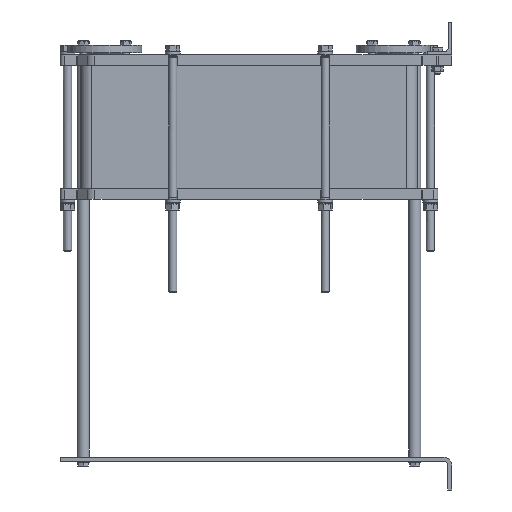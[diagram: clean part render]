
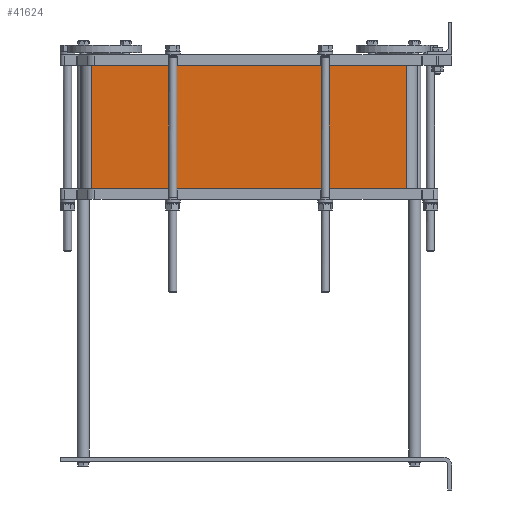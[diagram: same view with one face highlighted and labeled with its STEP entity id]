
A CAD part, left-side view. The second image highlights one B-rep face of the part: STEP entity #41624.
In plain terms, the highlighted planar face has unit normal (-1, 0, 0).
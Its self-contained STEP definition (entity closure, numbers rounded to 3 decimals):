
#1335 = VECTOR ( 'NONE', #27441, 1000. ) ;
#1501 = CARTESIAN_POINT ( 'NONE',  ( 31.5, 875., -105. ) ) ;
#5688 = AXIS2_PLACEMENT_3D ( 'NONE', #35583, #44429, #21113 ) ;
#9001 = CARTESIAN_POINT ( 'NONE',  ( 31.5, 109., -105. ) ) ;
#12763 = VERTEX_POINT ( 'NONE', #1501 ) ;
#15050 = VERTEX_POINT ( 'NONE', #43001 ) ;
#16832 = LINE ( 'NONE', #42337, #39189 ) ;
#17642 = CARTESIAN_POINT ( 'NONE',  ( 31.5, 109., -105. ) ) ;
#21113 = DIRECTION ( 'NONE',  ( 0., 1., 0. ) ) ;
#25554 = DIRECTION ( 'NONE',  ( 0., 0., -1. ) ) ;
#27441 = DIRECTION ( 'NONE',  ( 0., 0., -1. ) ) ;
#27828 = EDGE_CURVE ( 'NONE', #66385, #84514, #44017, .T. ) ;
#27891 = DIRECTION ( 'NONE',  ( 0., 1., 0. ) ) ;
#34667 = CARTESIAN_POINT ( 'NONE',  ( 31.5, 875., -105. ) ) ;
#35583 = CARTESIAN_POINT ( 'NONE',  ( 31.5, 109., -105. ) ) ;
#39189 = VECTOR ( 'NONE', #27891, 1000. ) ;
#41253 = LINE ( 'NONE', #34667, #1335 ) ;
#41624 = ADVANCED_FACE ( 'NONE', ( #75827 ), #94567, .T. ) ;
#42337 = CARTESIAN_POINT ( 'NONE',  ( 31.5, 875., -405. ) ) ;
#43001 = CARTESIAN_POINT ( 'NONE',  ( 31.5, 875., -405. ) ) ;
#44017 = LINE ( 'NONE', #17642, #81561 ) ;
#44429 = DIRECTION ( 'NONE',  ( -1., 0., 0. ) ) ;
#48965 = CARTESIAN_POINT ( 'NONE',  ( 31.5, 875., -105. ) ) ;
#53790 = VECTOR ( 'NONE', #65097, 1000. ) ;
#65097 = DIRECTION ( 'NONE',  ( 0., -1., 0. ) ) ;
#66385 = VERTEX_POINT ( 'NONE', #9001 ) ;
#73750 = LINE ( 'NONE', #48965, #53790 ) ;
#74944 = ORIENTED_EDGE ( 'NONE', *, *, #88553, .T. ) ;
#75827 = FACE_OUTER_BOUND ( 'NONE', #88258, .T. ) ;
#76348 = ORIENTED_EDGE ( 'NONE', *, *, #89548, .F. ) ;
#81561 = VECTOR ( 'NONE', #25554, 1000. ) ;
#84514 = VERTEX_POINT ( 'NONE', #96817 ) ;
#87004 = ORIENTED_EDGE ( 'NONE', *, *, #27828, .F. ) ;
#88258 = EDGE_LOOP ( 'NONE', ( #76348, #74944, #93231, #87004 ) ) ;
#88553 = EDGE_CURVE ( 'NONE', #12763, #15050, #41253, .T. ) ;
#89548 = EDGE_CURVE ( 'NONE', #12763, #66385, #73750, .T. ) ;
#93231 = ORIENTED_EDGE ( 'NONE', *, *, #94771, .F. ) ;
#94567 = PLANE ( 'NONE',  #5688 ) ;
#94771 = EDGE_CURVE ( 'NONE', #84514, #15050, #16832, .T. ) ;
#96817 = CARTESIAN_POINT ( 'NONE',  ( 31.5, 109., -405. ) ) ;
